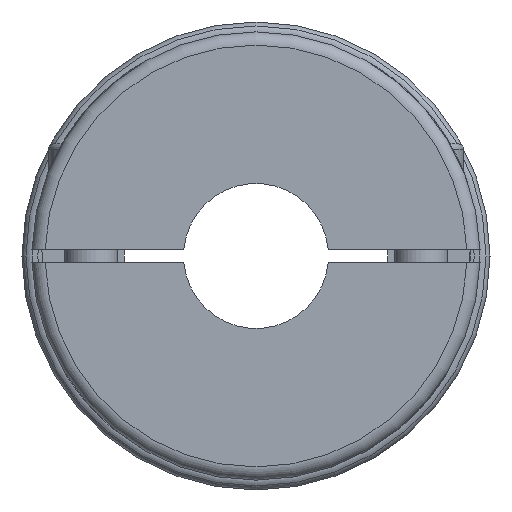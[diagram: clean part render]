
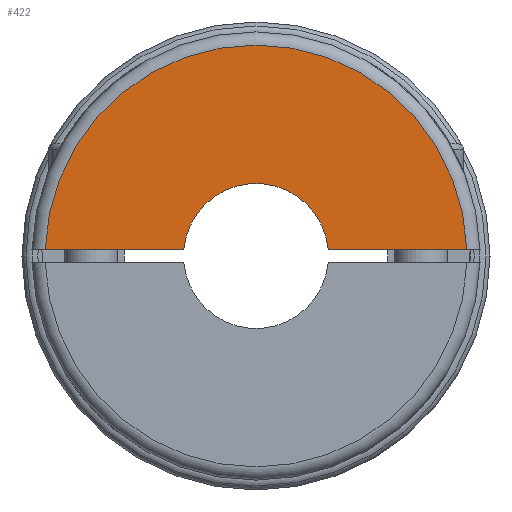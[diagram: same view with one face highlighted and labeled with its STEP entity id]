
A CAD part, left-side view. The second image highlights one B-rep face of the part: STEP entity #422.
In plain terms, the highlighted planar face has unit normal (-1, 0, 0).
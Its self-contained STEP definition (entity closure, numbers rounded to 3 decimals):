
#422 = ADVANCED_FACE( '', ( #1039 ), #1040, .T. );
#1039 = FACE_OUTER_BOUND( '', #1886, .T. );
#1040 = PLANE( '', #1887 );
#1886 = EDGE_LOOP( '', ( #3005, #3006, #3007, #3008 ) );
#1887 = AXIS2_PLACEMENT_3D( '', #3009, #3010, #3011 );
#3005 = ORIENTED_EDGE( '', *, *, #4327, .T. );
#3006 = ORIENTED_EDGE( '', *, *, #4328, .T. );
#3007 = ORIENTED_EDGE( '', *, *, #4329, .T. );
#3008 = ORIENTED_EDGE( '', *, *, #4330, .T. );
#3009 = CARTESIAN_POINT( '', ( -0.5, 0., 6. ) );
#3010 = DIRECTION( '', ( -1., 0., 0. ) );
#3011 = DIRECTION( '', ( 0., 0., 1. ) );
#4327 = EDGE_CURVE( '', #5087, #5088, #5089, .T. );
#4328 = EDGE_CURVE( '', #5088, #5090, #5091, .T. );
#4329 = EDGE_CURVE( '', #5090, #5092, #5093, .T. );
#4330 = EDGE_CURVE( '', #5092, #5087, #5094, .T. );
#5087 = VERTEX_POINT( '', #6515 );
#5088 = VERTEX_POINT( '', #6516 );
#5089 = LINE( '', #6517, #6518 );
#5090 = VERTEX_POINT( '', #6519 );
#5091 = CIRCLE( '', #6520, 11. );
#5092 = VERTEX_POINT( '', #6521 );
#5093 = LINE( '', #6522, #6523 );
#5094 = CIRCLE( '', #6524, 32. );
#6515 = CARTESIAN_POINT( '', ( -0.5, 31.984, 1. ) );
#6516 = CARTESIAN_POINT( '', ( -0.5, 10.954, 1. ) );
#6517 = CARTESIAN_POINT( '', ( -0.5, 0., 1. ) );
#6518 = VECTOR( '', #7709, 1000. );
#6519 = CARTESIAN_POINT( '', ( -0.5, -10.954, 1. ) );
#6520 = AXIS2_PLACEMENT_3D( '', #7710, #7711, #7712 );
#6521 = CARTESIAN_POINT( '', ( -0.5, -31.984, 1. ) );
#6522 = CARTESIAN_POINT( '', ( -0.5, 0., 1. ) );
#6523 = VECTOR( '', #7713, 1000. );
#6524 = AXIS2_PLACEMENT_3D( '', #7714, #7715, #7716 );
#7709 = DIRECTION( '', ( 0., -1., 0. ) );
#7710 = CARTESIAN_POINT( '', ( -0.5, 0., 0. ) );
#7711 = DIRECTION( '', ( 1., 0., 0. ) );
#7712 = DIRECTION( '', ( 0., -1., 0. ) );
#7713 = DIRECTION( '', ( 0., -1., 0. ) );
#7714 = CARTESIAN_POINT( '', ( -0.5, 0., 0. ) );
#7715 = DIRECTION( '', ( -1., 0., 0. ) );
#7716 = DIRECTION( '', ( 0., 0., 1. ) );
